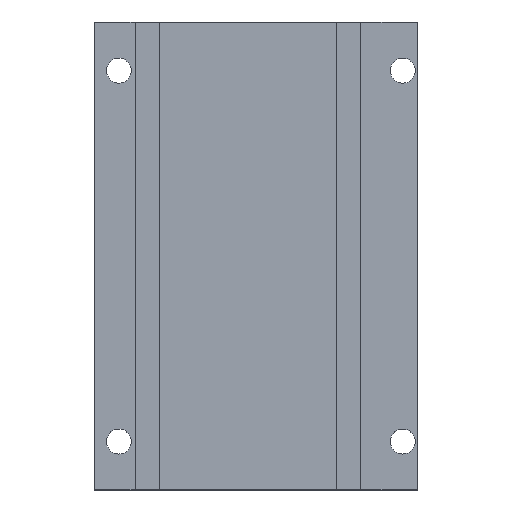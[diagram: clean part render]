
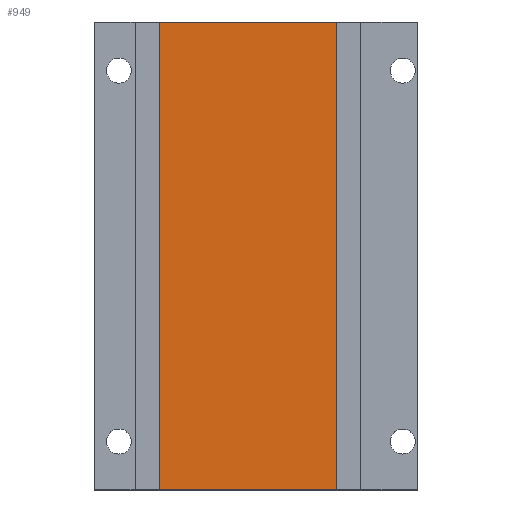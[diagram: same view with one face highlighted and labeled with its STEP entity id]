
A CAD part, top view. The second image highlights one B-rep face of the part: STEP entity #949.
In plain terms, the highlighted planar face has unit normal (0, 0, 1).
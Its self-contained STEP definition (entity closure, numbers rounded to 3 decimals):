
#72 = PLANE('',#73);
#73 = AXIS2_PLACEMENT_3D('',#74,#75,#76);
#74 = CARTESIAN_POINT('',(-78.,94.,35.));
#75 = DIRECTION('',(0.,1.,0.));
#76 = DIRECTION('',(0.,0.,1.));
#126 = PLANE('',#127);
#127 = AXIS2_PLACEMENT_3D('',#128,#129,#130);
#128 = CARTESIAN_POINT('',(-78.,36.,35.));
#129 = DIRECTION('',(0.,1.,0.));
#130 = DIRECTION('',(0.,0.,1.));
#256 = VERTEX_POINT('',#257);
#257 = CARTESIAN_POINT('',(-48.,36.,38.));
#271 = PLANE('',#272);
#272 = AXIS2_PLACEMENT_3D('',#273,#274,#275);
#273 = CARTESIAN_POINT('',(-48.,36.,38.));
#274 = DIRECTION('',(1.,0.,0.));
#275 = DIRECTION('',(0.,0.,1.));
#283 = EDGE_CURVE('',#284,#256,#286,.T.);
#284 = VERTEX_POINT('',#285);
#285 = CARTESIAN_POINT('',(-70.,36.,38.));
#286 = SURFACE_CURVE('',#287,(#291,#298),.PCURVE_S1.);
#287 = LINE('',#288,#289);
#288 = CARTESIAN_POINT('',(-78.,36.,38.));
#289 = VECTOR('',#290,1.);
#290 = DIRECTION('',(1.,0.,0.));
#291 = PCURVE('',#126,#292);
#292 = DEFINITIONAL_REPRESENTATION('',(#293),#297);
#293 = LINE('',#294,#295);
#294 = CARTESIAN_POINT('',(3.,0.));
#295 = VECTOR('',#296,1.);
#296 = DIRECTION('',(0.,1.));
#297 = ( GEOMETRIC_REPRESENTATION_CONTEXT(2) 
PARAMETRIC_REPRESENTATION_CONTEXT() REPRESENTATION_CONTEXT('2D SPACE',''
  ) );
#298 = PCURVE('',#299,#304);
#299 = PLANE('',#300);
#300 = AXIS2_PLACEMENT_3D('',#301,#302,#303);
#301 = CARTESIAN_POINT('',(-78.,36.,38.));
#302 = DIRECTION('',(0.,0.,1.));
#303 = DIRECTION('',(1.,0.,0.));
#304 = DEFINITIONAL_REPRESENTATION('',(#305),#309);
#305 = LINE('',#306,#307);
#306 = CARTESIAN_POINT('',(0.,0.));
#307 = VECTOR('',#308,1.);
#308 = DIRECTION('',(1.,0.));
#309 = ( GEOMETRIC_REPRESENTATION_CONTEXT(2) 
PARAMETRIC_REPRESENTATION_CONTEXT() REPRESENTATION_CONTEXT('2D SPACE',''
  ) );
#327 = PLANE('',#328);
#328 = AXIS2_PLACEMENT_3D('',#329,#330,#331);
#329 = CARTESIAN_POINT('',(-70.,36.,38.));
#330 = DIRECTION('',(1.,0.,0.));
#331 = DIRECTION('',(0.,0.,1.));
#624 = VERTEX_POINT('',#625);
#625 = CARTESIAN_POINT('',(-70.,94.,38.));
#646 = EDGE_CURVE('',#624,#647,#649,.T.);
#647 = VERTEX_POINT('',#648);
#648 = CARTESIAN_POINT('',(-48.,94.,38.));
#649 = SURFACE_CURVE('',#650,(#654,#661),.PCURVE_S1.);
#650 = LINE('',#651,#652);
#651 = CARTESIAN_POINT('',(-78.,94.,38.));
#652 = VECTOR('',#653,1.);
#653 = DIRECTION('',(1.,0.,0.));
#654 = PCURVE('',#72,#655);
#655 = DEFINITIONAL_REPRESENTATION('',(#656),#660);
#656 = LINE('',#657,#658);
#657 = CARTESIAN_POINT('',(3.,0.));
#658 = VECTOR('',#659,1.);
#659 = DIRECTION('',(0.,1.));
#660 = ( GEOMETRIC_REPRESENTATION_CONTEXT(2) 
PARAMETRIC_REPRESENTATION_CONTEXT() REPRESENTATION_CONTEXT('2D SPACE',''
  ) );
#661 = PCURVE('',#299,#662);
#662 = DEFINITIONAL_REPRESENTATION('',(#663),#667);
#663 = LINE('',#664,#665);
#664 = CARTESIAN_POINT('',(0.,58.));
#665 = VECTOR('',#666,1.);
#666 = DIRECTION('',(1.,0.));
#667 = ( GEOMETRIC_REPRESENTATION_CONTEXT(2) 
PARAMETRIC_REPRESENTATION_CONTEXT() REPRESENTATION_CONTEXT('2D SPACE',''
  ) );
#949 = ADVANCED_FACE('',(#950),#299,.T.);
#950 = FACE_BOUND('',#951,.T.);
#951 = EDGE_LOOP('',(#952,#953,#974,#975));
#952 = ORIENTED_EDGE('',*,*,#646,.F.);
#953 = ORIENTED_EDGE('',*,*,#954,.T.);
#954 = EDGE_CURVE('',#624,#284,#955,.T.);
#955 = SURFACE_CURVE('',#956,(#960,#967),.PCURVE_S1.);
#956 = LINE('',#957,#958);
#957 = CARTESIAN_POINT('',(-70.,36.,38.));
#958 = VECTOR('',#959,1.);
#959 = DIRECTION('',(0.,-1.,0.));
#960 = PCURVE('',#299,#961);
#961 = DEFINITIONAL_REPRESENTATION('',(#962),#966);
#962 = LINE('',#963,#964);
#963 = CARTESIAN_POINT('',(8.,0.));
#964 = VECTOR('',#965,1.);
#965 = DIRECTION('',(0.,-1.));
#966 = ( GEOMETRIC_REPRESENTATION_CONTEXT(2) 
PARAMETRIC_REPRESENTATION_CONTEXT() REPRESENTATION_CONTEXT('2D SPACE',''
  ) );
#967 = PCURVE('',#327,#968);
#968 = DEFINITIONAL_REPRESENTATION('',(#969),#973);
#969 = LINE('',#970,#971);
#970 = CARTESIAN_POINT('',(0.,0.));
#971 = VECTOR('',#972,1.);
#972 = DIRECTION('',(0.,1.));
#973 = ( GEOMETRIC_REPRESENTATION_CONTEXT(2) 
PARAMETRIC_REPRESENTATION_CONTEXT() REPRESENTATION_CONTEXT('2D SPACE',''
  ) );
#974 = ORIENTED_EDGE('',*,*,#283,.T.);
#975 = ORIENTED_EDGE('',*,*,#976,.T.);
#976 = EDGE_CURVE('',#256,#647,#977,.T.);
#977 = SURFACE_CURVE('',#978,(#982,#989),.PCURVE_S1.);
#978 = LINE('',#979,#980);
#979 = CARTESIAN_POINT('',(-48.,36.,38.));
#980 = VECTOR('',#981,1.);
#981 = DIRECTION('',(0.,1.,0.));
#982 = PCURVE('',#299,#983);
#983 = DEFINITIONAL_REPRESENTATION('',(#984),#988);
#984 = LINE('',#985,#986);
#985 = CARTESIAN_POINT('',(30.,0.));
#986 = VECTOR('',#987,1.);
#987 = DIRECTION('',(0.,1.));
#988 = ( GEOMETRIC_REPRESENTATION_CONTEXT(2) 
PARAMETRIC_REPRESENTATION_CONTEXT() REPRESENTATION_CONTEXT('2D SPACE',''
  ) );
#989 = PCURVE('',#271,#990);
#990 = DEFINITIONAL_REPRESENTATION('',(#991),#995);
#991 = LINE('',#992,#993);
#992 = CARTESIAN_POINT('',(0.,0.));
#993 = VECTOR('',#994,1.);
#994 = DIRECTION('',(0.,-1.));
#995 = ( GEOMETRIC_REPRESENTATION_CONTEXT(2) 
PARAMETRIC_REPRESENTATION_CONTEXT() REPRESENTATION_CONTEXT('2D SPACE',''
  ) );
